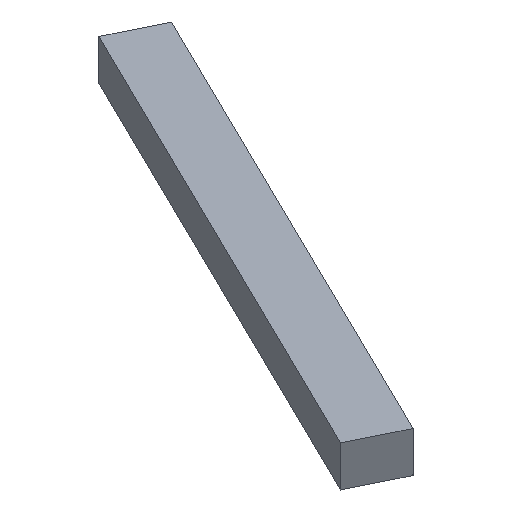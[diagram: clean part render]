
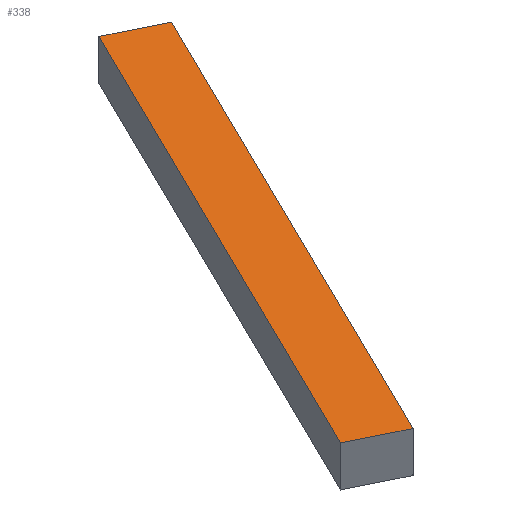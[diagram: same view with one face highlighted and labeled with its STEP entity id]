
A CAD part, isometric view. The second image highlights one B-rep face of the part: STEP entity #338.
In plain terms, the highlighted planar face has unit normal (0, 0, 1).
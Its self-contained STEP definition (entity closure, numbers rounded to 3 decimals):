
#24 = VERTEX_POINT('',#25);
#25 = CARTESIAN_POINT('',(126.407,192.258,75.));
#32 = PLANE('',#33);
#33 = AXIS2_PLACEMENT_3D('',#34,#35,#36);
#34 = CARTESIAN_POINT('',(126.407,192.258,69.));
#35 = DIRECTION('',(-0.898,0.439,0.));
#36 = DIRECTION('',(0.439,0.898,0.));
#44 = PLANE('',#45);
#45 = AXIS2_PLACEMENT_3D('',#46,#47,#48);
#46 = CARTESIAN_POINT('',(133.593,188.742,69.));
#47 = DIRECTION('',(-0.439,-0.898,0.));
#48 = DIRECTION('',(-0.898,0.439,0.));
#56 = EDGE_CURVE('',#24,#57,#59,.T.);
#57 = VERTEX_POINT('',#58);
#58 = CARTESIAN_POINT('',(160.407,261.758,75.));
#59 = SURFACE_CURVE('',#60,(#64,#71),.PCURVE_S1.);
#60 = LINE('',#61,#62);
#61 = CARTESIAN_POINT('',(126.407,192.258,75.));
#62 = VECTOR('',#63,1.);
#63 = DIRECTION('',(0.439,0.898,0.));
#64 = PCURVE('',#32,#65);
#65 = DEFINITIONAL_REPRESENTATION('',(#66),#70);
#66 = LINE('',#67,#68);
#67 = CARTESIAN_POINT('',(0.,-6.));
#68 = VECTOR('',#69,1.);
#69 = DIRECTION('',(1.,0.));
#70 = ( GEOMETRIC_REPRESENTATION_CONTEXT(2) 
PARAMETRIC_REPRESENTATION_CONTEXT() REPRESENTATION_CONTEXT('2D SPACE',''
  ) );
#71 = PCURVE('',#72,#77);
#72 = PLANE('',#73);
#73 = AXIS2_PLACEMENT_3D('',#74,#75,#76);
#74 = CARTESIAN_POINT('',(147.,225.25,75.));
#75 = DIRECTION('',(-0.,-0.,-1.));
#76 = DIRECTION('',(-1.,0.,0.));
#77 = DEFINITIONAL_REPRESENTATION('',(#78),#82);
#78 = LINE('',#79,#80);
#79 = CARTESIAN_POINT('',(20.593,-32.992));
#80 = VECTOR('',#81,1.);
#81 = DIRECTION('',(-0.439,0.898));
#82 = ( GEOMETRIC_REPRESENTATION_CONTEXT(2) 
PARAMETRIC_REPRESENTATION_CONTEXT() REPRESENTATION_CONTEXT('2D SPACE',''
  ) );
#100 = PLANE('',#101);
#101 = AXIS2_PLACEMENT_3D('',#102,#103,#104);
#102 = CARTESIAN_POINT('',(160.407,261.758,69.));
#103 = DIRECTION('',(0.439,0.898,-0.));
#104 = DIRECTION('',(0.898,-0.439,0.));
#142 = EDGE_CURVE('',#57,#143,#145,.T.);
#143 = VERTEX_POINT('',#144);
#144 = CARTESIAN_POINT('',(167.593,258.242,75.));
#145 = SURFACE_CURVE('',#146,(#150,#157),.PCURVE_S1.);
#146 = LINE('',#147,#148);
#147 = CARTESIAN_POINT('',(160.407,261.758,75.));
#148 = VECTOR('',#149,1.);
#149 = DIRECTION('',(0.898,-0.439,0.));
#150 = PCURVE('',#100,#151);
#151 = DEFINITIONAL_REPRESENTATION('',(#152),#156);
#152 = LINE('',#153,#154);
#153 = CARTESIAN_POINT('',(0.,-6.));
#154 = VECTOR('',#155,1.);
#155 = DIRECTION('',(1.,0.));
#156 = ( GEOMETRIC_REPRESENTATION_CONTEXT(2) 
PARAMETRIC_REPRESENTATION_CONTEXT() REPRESENTATION_CONTEXT('2D SPACE',''
  ) );
#157 = PCURVE('',#72,#158);
#158 = DEFINITIONAL_REPRESENTATION('',(#159),#163);
#159 = LINE('',#160,#161);
#160 = CARTESIAN_POINT('',(-13.407,36.508));
#161 = VECTOR('',#162,1.);
#162 = DIRECTION('',(-0.898,-0.439));
#163 = ( GEOMETRIC_REPRESENTATION_CONTEXT(2) 
PARAMETRIC_REPRESENTATION_CONTEXT() REPRESENTATION_CONTEXT('2D SPACE',''
  ) );
#181 = PLANE('',#182);
#182 = AXIS2_PLACEMENT_3D('',#183,#184,#185);
#183 = CARTESIAN_POINT('',(167.593,258.242,69.));
#184 = DIRECTION('',(0.898,-0.439,0.));
#185 = DIRECTION('',(-0.439,-0.898,0.));
#218 = EDGE_CURVE('',#143,#219,#221,.T.);
#219 = VERTEX_POINT('',#220);
#220 = CARTESIAN_POINT('',(133.593,188.742,75.));
#221 = SURFACE_CURVE('',#222,(#226,#233),.PCURVE_S1.);
#222 = LINE('',#223,#224);
#223 = CARTESIAN_POINT('',(167.593,258.242,75.));
#224 = VECTOR('',#225,1.);
#225 = DIRECTION('',(-0.439,-0.898,0.));
#226 = PCURVE('',#181,#227);
#227 = DEFINITIONAL_REPRESENTATION('',(#228),#232);
#228 = LINE('',#229,#230);
#229 = CARTESIAN_POINT('',(0.,-6.));
#230 = VECTOR('',#231,1.);
#231 = DIRECTION('',(1.,0.));
#232 = ( GEOMETRIC_REPRESENTATION_CONTEXT(2) 
PARAMETRIC_REPRESENTATION_CONTEXT() REPRESENTATION_CONTEXT('2D SPACE',''
  ) );
#233 = PCURVE('',#72,#234);
#234 = DEFINITIONAL_REPRESENTATION('',(#235),#239);
#235 = LINE('',#236,#237);
#236 = CARTESIAN_POINT('',(-20.593,32.992));
#237 = VECTOR('',#238,1.);
#238 = DIRECTION('',(0.439,-0.898));
#239 = ( GEOMETRIC_REPRESENTATION_CONTEXT(2) 
PARAMETRIC_REPRESENTATION_CONTEXT() REPRESENTATION_CONTEXT('2D SPACE',''
  ) );
#289 = EDGE_CURVE('',#219,#24,#290,.T.);
#290 = SURFACE_CURVE('',#291,(#295,#302),.PCURVE_S1.);
#291 = LINE('',#292,#293);
#292 = CARTESIAN_POINT('',(133.593,188.742,75.));
#293 = VECTOR('',#294,1.);
#294 = DIRECTION('',(-0.898,0.439,0.));
#295 = PCURVE('',#44,#296);
#296 = DEFINITIONAL_REPRESENTATION('',(#297),#301);
#297 = LINE('',#298,#299);
#298 = CARTESIAN_POINT('',(0.,-6.));
#299 = VECTOR('',#300,1.);
#300 = DIRECTION('',(1.,0.));
#301 = ( GEOMETRIC_REPRESENTATION_CONTEXT(2) 
PARAMETRIC_REPRESENTATION_CONTEXT() REPRESENTATION_CONTEXT('2D SPACE',''
  ) );
#302 = PCURVE('',#72,#303);
#303 = DEFINITIONAL_REPRESENTATION('',(#304),#308);
#304 = LINE('',#305,#306);
#305 = CARTESIAN_POINT('',(13.407,-36.508));
#306 = VECTOR('',#307,1.);
#307 = DIRECTION('',(0.898,0.439));
#308 = ( GEOMETRIC_REPRESENTATION_CONTEXT(2) 
PARAMETRIC_REPRESENTATION_CONTEXT() REPRESENTATION_CONTEXT('2D SPACE',''
  ) );
#338 = ADVANCED_FACE('',(#339),#72,.F.);
#339 = FACE_BOUND('',#340,.F.);
#340 = EDGE_LOOP('',(#341,#342,#343,#344));
#341 = ORIENTED_EDGE('',*,*,#56,.T.);
#342 = ORIENTED_EDGE('',*,*,#142,.T.);
#343 = ORIENTED_EDGE('',*,*,#218,.T.);
#344 = ORIENTED_EDGE('',*,*,#289,.T.);
